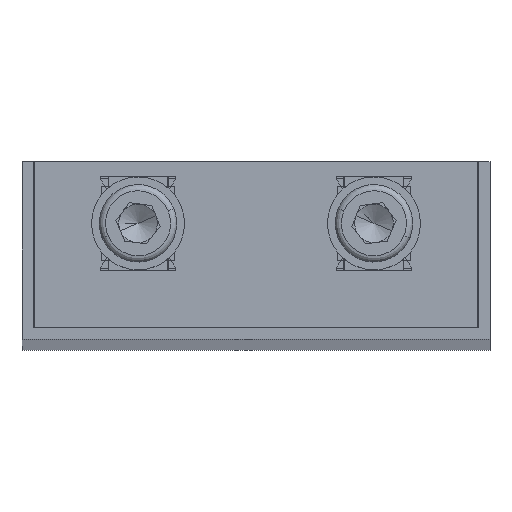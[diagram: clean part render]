
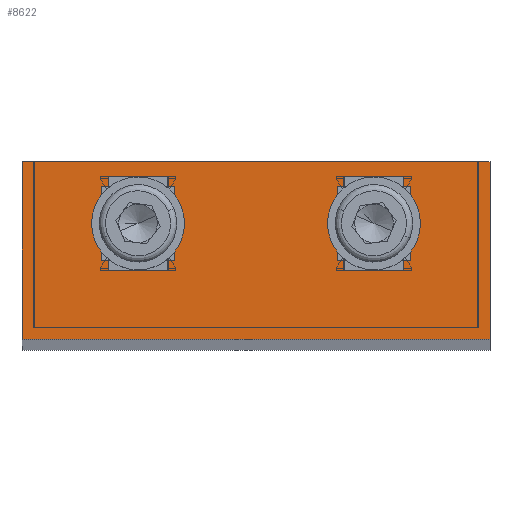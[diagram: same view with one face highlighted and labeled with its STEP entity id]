
A CAD part, top view. The second image highlights one B-rep face of the part: STEP entity #8622.
In plain terms, the highlighted planar face has unit normal (0, 0, 1).
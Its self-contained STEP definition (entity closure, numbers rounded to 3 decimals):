
#7038 = VERTEX_POINT('',#7039);
#7039 = CARTESIAN_POINT('',(-28.65,0.,407.));
#7054 = VERTEX_POINT('',#7055);
#7055 = CARTESIAN_POINT('',(28.65,0.,407.));
#7061 = EDGE_CURVE('',#7062,#7054,#7064,.T.);
#7062 = VERTEX_POINT('',#7063);
#7063 = CARTESIAN_POINT('',(28.75,0.,407.));
#7064 = LINE('',#7065,#7066);
#7065 = CARTESIAN_POINT('',(-28.75,0.,407.));
#7066 = VECTOR('',#7067,1.);
#7067 = DIRECTION('',(-1.,0.,0.));
#7118 = VERTEX_POINT('',#7119);
#7119 = CARTESIAN_POINT('',(-28.75,0.,407.));
#7125 = EDGE_CURVE('',#7118,#7038,#7126,.T.);
#7126 = LINE('',#7127,#7128);
#7127 = CARTESIAN_POINT('',(0.,0.,407.)
  );
#7128 = VECTOR('',#7129,1.);
#7129 = DIRECTION('',(1.,0.,0.));
#7139 = EDGE_CURVE('',#7140,#7142,#7144,.T.);
#7140 = VERTEX_POINT('',#7141);
#7141 = CARTESIAN_POINT('',(-30.25,-1.5,407.));
#7142 = VERTEX_POINT('',#7143);
#7143 = CARTESIAN_POINT('',(30.25,-1.5,407.));
#7144 = LINE('',#7145,#7146);
#7145 = CARTESIAN_POINT('',(-28.75,-1.5,407.));
#7146 = VECTOR('',#7147,1.);
#7147 = DIRECTION('',(1.,0.,0.));
#7179 = EDGE_CURVE('',#7038,#7180,#7182,.T.);
#7180 = VERTEX_POINT('',#7181);
#7181 = CARTESIAN_POINT('',(-28.65,21.5,407.));
#7182 = LINE('',#7183,#7184);
#7183 = CARTESIAN_POINT('',(-28.65,0.6,407.));
#7184 = VECTOR('',#7185,1.);
#7185 = DIRECTION('',(0.,1.,0.));
#7210 = EDGE_CURVE('',#7054,#7211,#7213,.T.);
#7211 = VERTEX_POINT('',#7212);
#7212 = CARTESIAN_POINT('',(28.65,21.5,407.));
#7213 = LINE('',#7214,#7215);
#7214 = CARTESIAN_POINT('',(28.65,0.6,407.));
#7215 = VECTOR('',#7216,1.);
#7216 = DIRECTION('',(0.,1.,0.));
#7248 = EDGE_CURVE('',#7211,#7180,#7249,.T.);
#7249 = LINE('',#7250,#7251);
#7250 = CARTESIAN_POINT('',(0.,21.5,407.));
#7251 = VECTOR('',#7252,1.);
#7252 = DIRECTION('',(-1.,0.,0.));
#7354 = VERTEX_POINT('',#7355);
#7355 = CARTESIAN_POINT('',(28.75,21.5,407.));
#7361 = EDGE_CURVE('',#7354,#7362,#7364,.T.);
#7362 = VERTEX_POINT('',#7363);
#7363 = CARTESIAN_POINT('',(30.25,21.5,407.));
#7364 = LINE('',#7365,#7366);
#7365 = CARTESIAN_POINT('',(28.75,21.5,407.));
#7366 = VECTOR('',#7367,1.);
#7367 = DIRECTION('',(1.,0.,0.));
#7521 = EDGE_CURVE('',#7062,#7354,#7522,.T.);
#7522 = LINE('',#7523,#7524);
#7523 = CARTESIAN_POINT('',(28.75,0.,407.));
#7524 = VECTOR('',#7525,1.);
#7525 = DIRECTION('',(0.,1.,0.));
#8003 = EDGE_CURVE('',#7142,#7362,#8004,.T.);
#8004 = LINE('',#8005,#8006);
#8005 = CARTESIAN_POINT('',(30.25,0.,407.));
#8006 = VECTOR('',#8007,1.);
#8007 = DIRECTION('',(0.,1.,0.));
#8622 = ADVANCED_FACE('',(#8623,#8656,#8690),#8724,.F.);
#8623 = FACE_BOUND('',#8624,.T.);
#8624 = EDGE_LOOP('',(#8625,#8633,#8634,#8635,#8636,#8637,#8638,#8639,
    #8640,#8641,#8642,#8650));
#8625 = ORIENTED_EDGE('',*,*,#8626,.T.);
#8626 = EDGE_CURVE('',#8627,#7140,#8629,.T.);
#8627 = VERTEX_POINT('',#8628);
#8628 = CARTESIAN_POINT('',(-30.25,21.5,407.));
#8629 = LINE('',#8630,#8631);
#8630 = CARTESIAN_POINT('',(-30.25,21.5,407.));
#8631 = VECTOR('',#8632,1.);
#8632 = DIRECTION('',(-0.,-1.,-0.));
#8633 = ORIENTED_EDGE('',*,*,#7139,.T.);
#8634 = ORIENTED_EDGE('',*,*,#8003,.T.);
#8635 = ORIENTED_EDGE('',*,*,#7361,.F.);
#8636 = ORIENTED_EDGE('',*,*,#7521,.F.);
#8637 = ORIENTED_EDGE('',*,*,#7061,.T.);
#8638 = ORIENTED_EDGE('',*,*,#7210,.T.);
#8639 = ORIENTED_EDGE('',*,*,#7248,.T.);
#8640 = ORIENTED_EDGE('',*,*,#7179,.F.);
#8641 = ORIENTED_EDGE('',*,*,#7125,.F.);
#8642 = ORIENTED_EDGE('',*,*,#8643,.F.);
#8643 = EDGE_CURVE('',#8644,#7118,#8646,.T.);
#8644 = VERTEX_POINT('',#8645);
#8645 = CARTESIAN_POINT('',(-28.75,21.5,407.));
#8646 = LINE('',#8647,#8648);
#8647 = CARTESIAN_POINT('',(-28.75,21.5,407.));
#8648 = VECTOR('',#8649,1.);
#8649 = DIRECTION('',(0.,-1.,0.));
#8650 = ORIENTED_EDGE('',*,*,#8651,.F.);
#8651 = EDGE_CURVE('',#8627,#8644,#8652,.T.);
#8652 = LINE('',#8653,#8654);
#8653 = CARTESIAN_POINT('',(-30.25,21.5,407.));
#8654 = VECTOR('',#8655,1.);
#8655 = DIRECTION('',(1.,0.,0.));
#8656 = FACE_BOUND('',#8657,.T.);
#8657 = EDGE_LOOP('',(#8658,#8668,#8676,#8684));
#8658 = ORIENTED_EDGE('',*,*,#8659,.F.);
#8659 = EDGE_CURVE('',#8660,#8662,#8664,.T.);
#8660 = VERTEX_POINT('',#8661);
#8661 = CARTESIAN_POINT('',(-20.,18.25,407.));
#8662 = VERTEX_POINT('',#8663);
#8663 = CARTESIAN_POINT('',(-20.,8.75,407.));
#8664 = LINE('',#8665,#8666);
#8665 = CARTESIAN_POINT('',(-20.,8.75,407.));
#8666 = VECTOR('',#8667,1.);
#8667 = DIRECTION('',(-0.,-1.,-0.));
#8668 = ORIENTED_EDGE('',*,*,#8669,.F.);
#8669 = EDGE_CURVE('',#8670,#8660,#8672,.T.);
#8670 = VERTEX_POINT('',#8671);
#8671 = CARTESIAN_POINT('',(-10.5,18.25,407.));
#8672 = LINE('',#8673,#8674);
#8673 = CARTESIAN_POINT('',(-11.,18.25,407.));
#8674 = VECTOR('',#8675,1.);
#8675 = DIRECTION('',(-1.,0.,0.));
#8676 = ORIENTED_EDGE('',*,*,#8677,.F.);
#8677 = EDGE_CURVE('',#8678,#8670,#8680,.T.);
#8678 = VERTEX_POINT('',#8679);
#8679 = CARTESIAN_POINT('',(-10.5,8.75,407.));
#8680 = LINE('',#8681,#8682);
#8681 = CARTESIAN_POINT('',(-10.5,18.25,407.));
#8682 = VECTOR('',#8683,1.);
#8683 = DIRECTION('',(-0.,1.,-0.));
#8684 = ORIENTED_EDGE('',*,*,#8685,.F.);
#8685 = EDGE_CURVE('',#8662,#8678,#8686,.T.);
#8686 = LINE('',#8687,#8688);
#8687 = CARTESIAN_POINT('',(-10.5,8.75,407.));
#8688 = VECTOR('',#8689,1.);
#8689 = DIRECTION('',(1.,-0.,-0.));
#8690 = FACE_BOUND('',#8691,.T.);
#8691 = EDGE_LOOP('',(#8692,#8702,#8710,#8718));
#8692 = ORIENTED_EDGE('',*,*,#8693,.F.);
#8693 = EDGE_CURVE('',#8694,#8696,#8698,.T.);
#8694 = VERTEX_POINT('',#8695);
#8695 = CARTESIAN_POINT('',(10.5,18.25,407.));
#8696 = VERTEX_POINT('',#8697);
#8697 = CARTESIAN_POINT('',(10.5,8.75,407.));
#8698 = LINE('',#8699,#8700);
#8699 = CARTESIAN_POINT('',(10.5,8.75,407.));
#8700 = VECTOR('',#8701,1.);
#8701 = DIRECTION('',(-0.,-1.,-0.));
#8702 = ORIENTED_EDGE('',*,*,#8703,.F.);
#8703 = EDGE_CURVE('',#8704,#8694,#8706,.T.);
#8704 = VERTEX_POINT('',#8705);
#8705 = CARTESIAN_POINT('',(20.,18.25,407.));
#8706 = LINE('',#8707,#8708);
#8707 = CARTESIAN_POINT('',(11.,18.25,407.));
#8708 = VECTOR('',#8709,1.);
#8709 = DIRECTION('',(-1.,-0.,-0.));
#8710 = ORIENTED_EDGE('',*,*,#8711,.F.);
#8711 = EDGE_CURVE('',#8712,#8704,#8714,.T.);
#8712 = VERTEX_POINT('',#8713);
#8713 = CARTESIAN_POINT('',(20.,8.75,407.));
#8714 = LINE('',#8715,#8716);
#8715 = CARTESIAN_POINT('',(20.,17.75,407.));
#8716 = VECTOR('',#8717,1.);
#8717 = DIRECTION('',(0.,1.,0.));
#8718 = ORIENTED_EDGE('',*,*,#8719,.F.);
#8719 = EDGE_CURVE('',#8696,#8712,#8720,.T.);
#8720 = LINE('',#8721,#8722);
#8721 = CARTESIAN_POINT('',(19.5,8.75,407.));
#8722 = VECTOR('',#8723,1.);
#8723 = DIRECTION('',(1.,0.,0.));
#8724 = PLANE('',#8725);
#8725 = AXIS2_PLACEMENT_3D('',#8726,#8727,#8728);
#8726 = CARTESIAN_POINT('',(28.15,0.6,407.));
#8727 = DIRECTION('',(0.,0.,-1.));
#8728 = DIRECTION('',(-1.,0.,0.));
